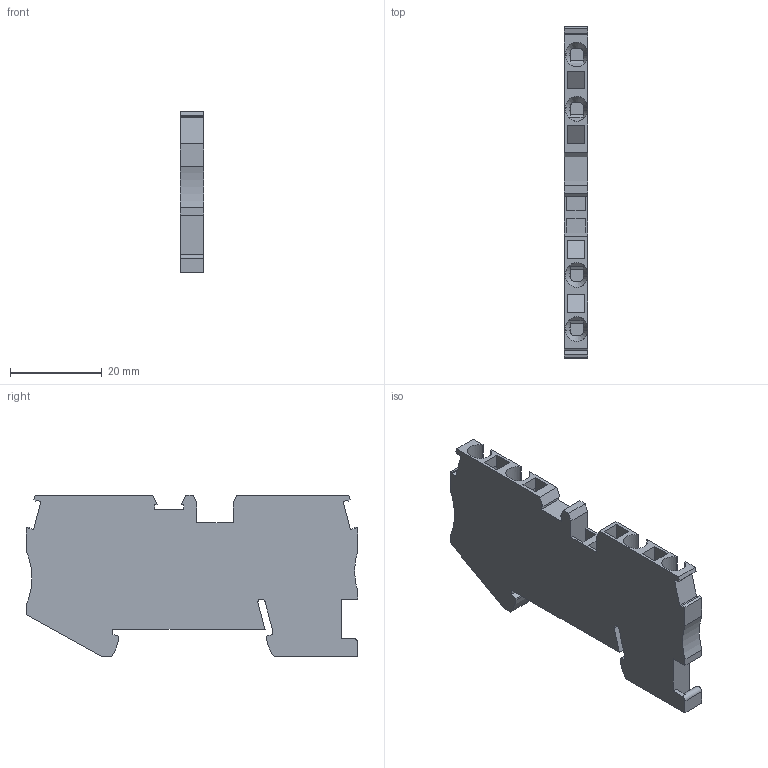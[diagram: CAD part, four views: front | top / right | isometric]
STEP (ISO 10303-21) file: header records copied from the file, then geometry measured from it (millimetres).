
FILE_DESCRIPTION(('TFLEX Exchange Step'),'2;1');
FILE_NAME('10000089_KH3_2,5-4-З.stp', '2023-09-11T15:45:48+03:00',('apanin'),('Unknown organisation'),'TFLEX Exchange 2023.0','T-FLEX CAD','Unknown authorisation');
FILE_SCHEMA( ('AUTOMOTIVE_DESIGN { 1 0 10303 214 1 1 1 1 }') );
Length unit declared in the file: millimetre
Products named in the file (1): Тело_1 - 1:1
Bounding box: 5.15 x 72.2 x 35.25 mm (x, y, z)
Volume: 9312.5 mm3; surface area: 7013.7 mm2
Topology: 1 solids, 1 shells, 181 faces, 537 edges, 362 vertices
Faces by surface type: plane 138, cylinder 31, cone 12
Entity records: 6970 total; most frequent: CARTESIAN_POINT 2306, ORIENTED_EDGE 1074, DIRECTION 821, EDGE_CURVE 537, VERTEX_POINT 362, VECTOR 307, LINE 307, AXIS2_PLACEMENT_3D 257
